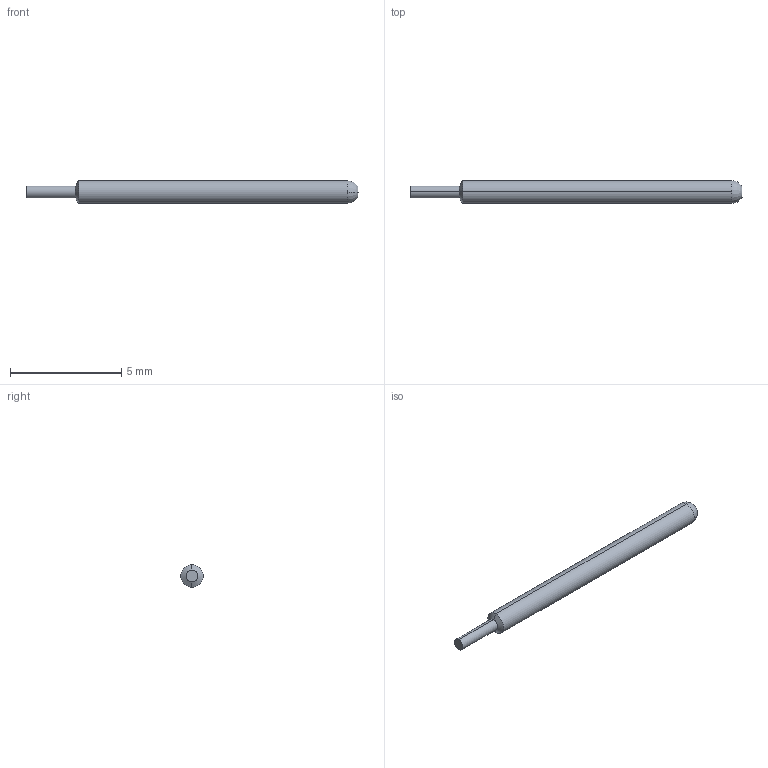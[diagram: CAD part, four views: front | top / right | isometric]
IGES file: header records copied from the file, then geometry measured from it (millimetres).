
Start section: SolidWorks IGES file using analytic representation for surfaces
Global section: file name: Z:\probe solid model mockups\Solidworks models\IGES Files\HPA-1\HPA-1C RECD.IGS; native system: SolidWorks 2006 by SolidWorks Corporation; preprocessor: SolidWorks 2006 by SolidWorks Corporation; author: tsakatani; date: 071220.111827; units: inch
Bounding box: 14.94 x 1.02 x 1.02 mm (x, y, z)
Surface area: 44.9 mm2 (no closed solid volume)
Topology: 0 solids, 0 shells, 10 faces, 68 edges, 68 vertices
Faces by surface type: revolution 8, bspline 2
